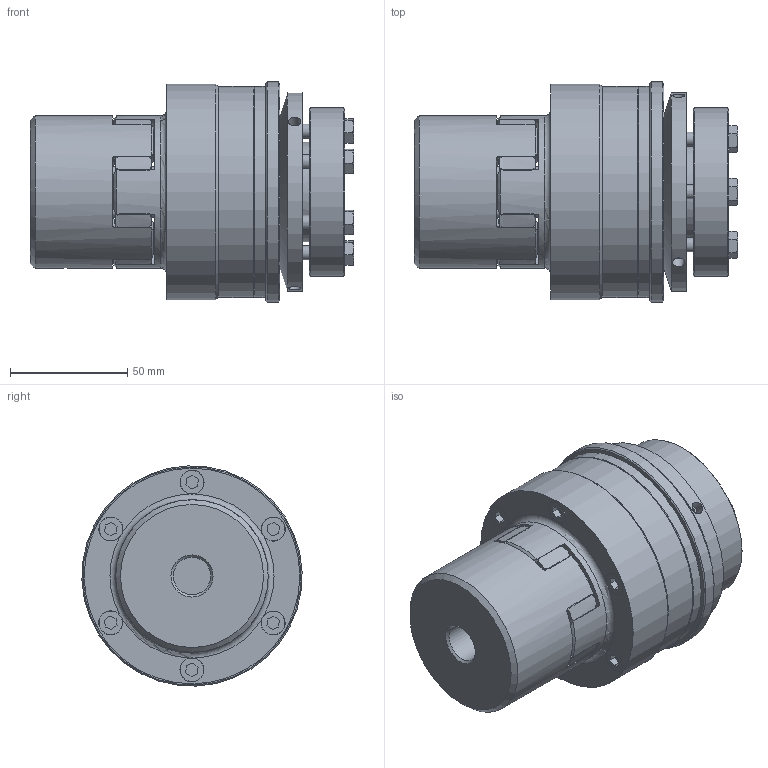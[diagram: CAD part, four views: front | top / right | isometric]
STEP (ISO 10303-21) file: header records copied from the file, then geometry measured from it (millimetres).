
FILE_DESCRIPTION( ( 'Unknown' ), '1' );
FILE_NAME( 'C:/Users/skarpstein/Desktop/Korrigierte 3D Modelle/KBK-E-PA/KBK EPA-28.stp', 'Unknown', ( 'Unknown' ), ( 'Unknown' ), 'PSStep 16.0.42', 'Unknown', ' ' );
FILE_SCHEMA( ( 'AUTOMOTIVE_DESIGN { 1 0 10303 214 1 1 1 1 }' ) );
Length unit declared in the file: millimetre
Products named in the file (30): ball_bearing_-_6008_0_02_0; Zylinderschraube DIN 912_0; ball_bearing_-_6008_0_01_0; ball_bearing_-_6008_0_03_0; din_en_24017_m6x25; KBK L-A-80 Grundkörper; Elastomerflansch 28; Zahnkranz EK28_Standard; Druckring L-A-80; Stellring 80; Assem2_0; Flansch 80; Druckring 80; Assem3; a_40; Assem1; KBE 1 - 28_Nabe
Assembly tree (39 placements, depth 4):
  Assem1
    KBE 1 - 28_Nabe
    Stellring 80
      Stellring 80
    Druckring 80
      Druckring 80
    Flansch 80
      Flansch 80
    a_40
      a_40
    Elastomerflansch 28
      Elastomerflansch 28
    Zahnkranz EK28_Standard
      Zahnkranz EK28_Standard
    KBK L-A-80 Grundkörper
      KBK L-A-80 Grundkörper
    Druckring L-A-80
      Druckring L-A-80
    din_en_24017_m6x25  x6
      din_en_24017_m6x25
    Assem3
      ball_bearing_-_6008_0_01_0
        ball_bearing_-_6008_0_01_0
      ball_bearing_-_6008_0_02_0
        ball_bearing_-_6008_0_02_0
      ball_bearing_-_6008_0_03_0
        ball_bearing_-_6008_0_03_0
    Assem2_0  x6
      Zylinderschraube DIN 912_0
        Zylinderschraube DIN 912_0
Bounding box: 137.9 x 93.92 x 93.92 mm (x, y, z)
Volume: 531935.3 mm3; surface area: 161776.7 mm2
Topology: 24 solids, 24 shells, 579 faces, 1311 edges, 842 vertices
Faces by surface type: plane 228, cylinder 169, cone 156, torus 26
Full cylindrical faces by diameter (mm): 2.5 x2, 3.242 x3, 4.917 x12, 5 x13, 5.2 x3, 6 x12, 6.2 x6, 6.6 x6, 8.8 x6, 10 x6, 10.2 x6, 16 x1, 19 x1, 30 x3, 37.5 x1, 40 x3, 42.29 x1, 49.2 x2, 59.1 x2, 61 x1, 62 x2, 65 x2, 68 x3, 70 x1, 72 x1, 85 x1, 87 x1, 90 x2, 92 x1, 94 x1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
Entity records: 15374 total; most frequent: CARTESIAN_POINT 2853, DIRECTION 2010, ORIENTED_EDGE 1526, AXIS2_PLACEMENT_3D 936, EDGE_CURVE 763, EDGE_LOOP 628, VERTEX_POINT 559, FACE_OUTER_BOUND 500
